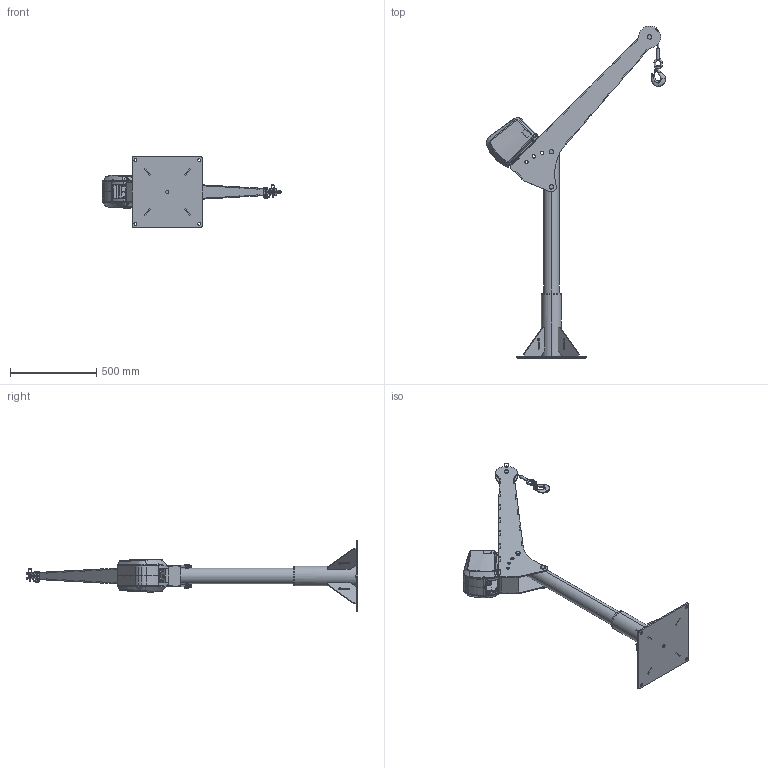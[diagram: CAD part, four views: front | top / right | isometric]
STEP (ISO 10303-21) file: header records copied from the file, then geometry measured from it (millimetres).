
FILE_DESCRIPTION (( 'STEP AP214' ), '1' );
FILE_NAME ('OZSS1500DAV-ACDCW.STEP', '2026-05-13T16:13:52', ( '' ), ( '' ), 'SwSTEP 2.0', 'SolidWorks 2023', '' );
FILE_SCHEMA (( 'AUTOMOTIVE_DESIGN' ));
Length unit declared in the file: inch
Products named in the file (31): 360-0380; 366-07500-475; 236-05013-000_93560A180; 360-0280; 306-01900-100_90170A205; 261-0180; 360-0290; 390-0392; 361-0000_NO BASE CAP; OZSS1500DAV-ACDCW; 261-0082; 261-0000_POS 4; 608-07500-075; 236-03816-000_93560A160; OZPED1-TPSS_No base cap, No decals; 470-0400; OZACW; 290-0000; 261-0080; 790-1401_35165T65; 360-0281; 261-0282; 261-0281; 261-0283; 360-0080; 261-0081; 290-0390; 316-02500-150; 261-0280; 366-07500-188; 360-0180
Assembly tree (42 placements, depth 5):
  OZSS1500DAV-ACDCW
    261-0000_POS 4
      261-0082
        261-0180
        261-0283
      261-0080
        261-0280
        261-0281  x2
        261-0081
          261-0282
          236-05013-000_93560A180  x3
          236-03816-000_93560A160  x4
      306-01900-100_90170A205  x3
      316-02500-150
      290-0000
        608-07500-075
        290-0390
      366-07500-475  x2
      366-07500-188
    790-1401_35165T65
    OZACW
      470-0400
    OZPED1-TPSS_No base cap, No decals
      361-0000_NO BASE CAP
        360-0080
          360-0180
          360-0280
          360-0380
          360-0281  x4
        390-0392
        360-0290
Bounding box: 1036.07 x 1919.1 x 406.4 mm (x, y, z)
Volume: 8809037.7 mm3; surface area: 2969284.1 mm2
Topology: 42 solids, 117 shells, 1978 faces, 6792 edges, 4950 vertices
Faces by surface type: plane 836, cylinder 707, cone 211, bspline 150, torus 58, sphere 16
Entity records: 89172 total; most frequent: CARTESIAN_POINT 43968, DIRECTION 9010, ORIENTED_EDGE 8649, EDGE_CURVE 5365, VERTEX_POINT 4025, AXIS2_PLACEMENT_3D 3331, VECTOR 2348, LINE 2348
